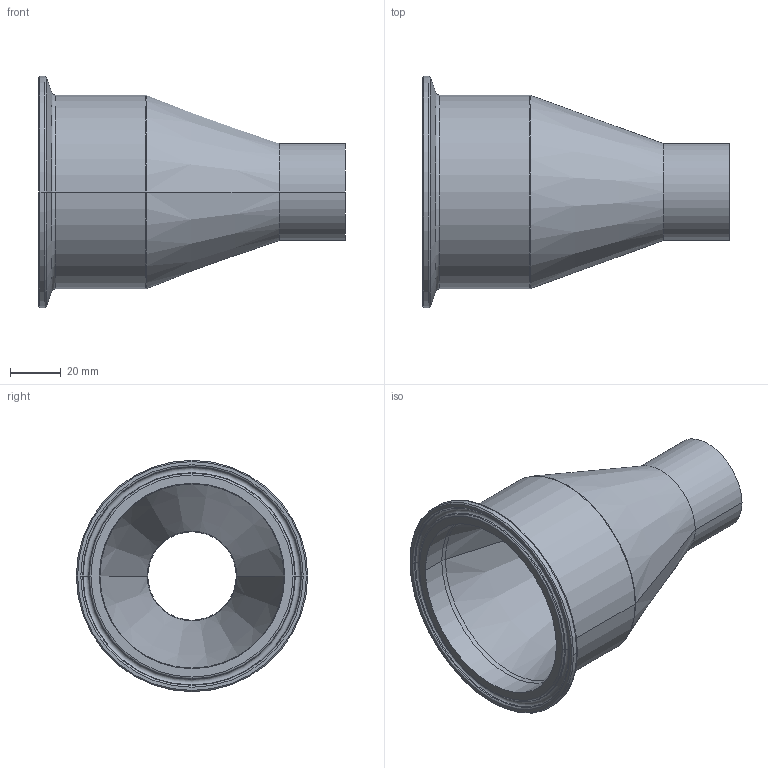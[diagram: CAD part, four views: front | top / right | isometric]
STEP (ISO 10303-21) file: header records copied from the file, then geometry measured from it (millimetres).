
FILE_DESCRIPTION (( 'STEP AP214' ), '1' );
FILE_NAME ('TE31SCW6L3.0x1.5-...STEP', '2016-05-29T11:56:49', ( 'eran' ), ( '' ), 'SwSTEP 2.0', 'SolidWorks 2016', '' );
FILE_SCHEMA (( 'AUTOMOTIVE_DESIGN' ));
Length unit declared in the file: millimetre
Products named in the file (1): TE31SCW6L3.0x1.5-..
Bounding box: 120.65 x 91 x 91 mm (x, y, z)
Volume: 127582 mm3; surface area: 46328.3 mm2
Topology: 1 solids, 1 shells, 41 faces, 82 edges, 44 vertices
Faces by surface type: torus 16, cone 12, cylinder 10, plane 3
Entity records: 1098 total; most frequent: DIRECTION 226, CARTESIAN_POINT 168, ORIENTED_EDGE 164, AXIS2_PLACEMENT_3D 102, EDGE_CURVE 82, CIRCLE 60, EDGE_LOOP 44, VERTEX_POINT 44
